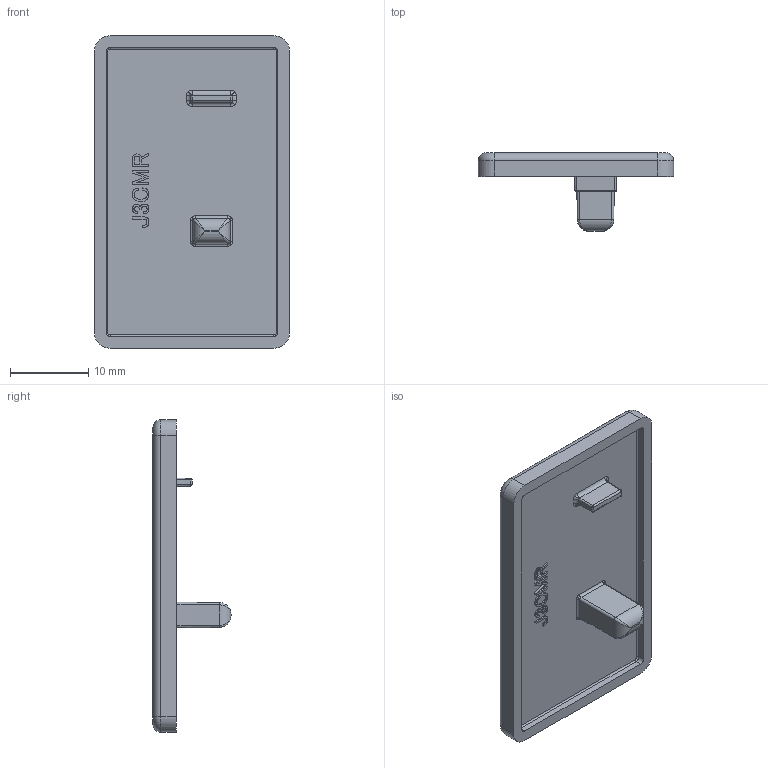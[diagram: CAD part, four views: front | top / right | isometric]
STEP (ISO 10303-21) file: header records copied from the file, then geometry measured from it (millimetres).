
FILE_DESCRIPTION (( 'STEP AP214' ), '1' );
FILE_NAME ('J3CMR.step', '2017-05-24T07:38:53', ( 'admin' ), ( '' ), 'SwSTEP 2.0', 'SolidWorks 2014', '' );
FILE_SCHEMA (( 'AUTOMOTIVE_DESIGN' ));
Length unit declared in the file: millimetre
Products named in the file (1): J3CMR
Bounding box: 25 x 10 x 40 mm (x, y, z)
Volume: 2285.4 mm3; surface area: 2579.3 mm2
Topology: 1 solids, 1 shells, 192 faces, 495 edges, 306 vertices
Faces by surface type: bspline 76, plane 64, cylinder 40, torus 8, sphere 4
Entity records: 7669 total; most frequent: CARTESIAN_POINT 3550, ORIENTED_EDGE 974, DIRECTION 649, EDGE_CURVE 487, VERTEX_POINT 306, LINE 255, VECTOR 255, EDGE_LOOP 201
